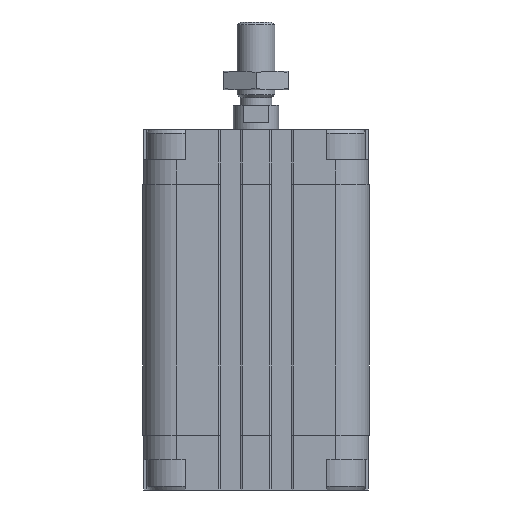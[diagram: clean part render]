
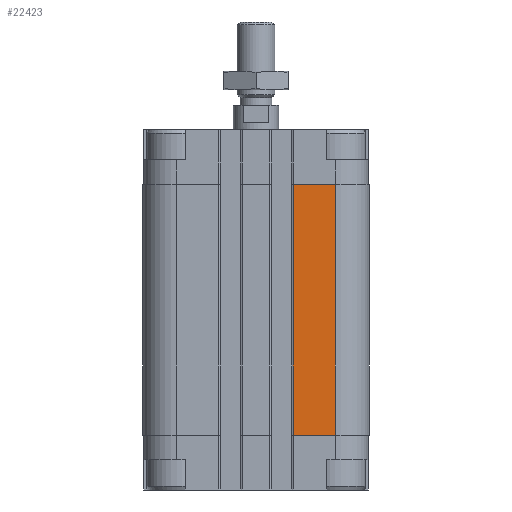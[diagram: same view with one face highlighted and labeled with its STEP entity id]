
A CAD part, front view. The second image highlights one B-rep face of the part: STEP entity #22423.
In plain terms, the highlighted planar face has unit normal (0, -1, 0).
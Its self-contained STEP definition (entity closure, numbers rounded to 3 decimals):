
#145 = EDGE_CURVE ( 'NONE', #3998, #12219, #4376, .T. ) ;
#923 = VECTOR ( 'NONE', #8319, 1000. ) ;
#1722 = LINE ( 'NONE', #1839, #22267 ) ;
#1839 = CARTESIAN_POINT ( 'NONE',  ( 9.85, -30., -81. ) ) ;
#2235 = ORIENTED_EDGE ( 'NONE', *, *, #5412, .F. ) ;
#3998 = VERTEX_POINT ( 'NONE', #21589 ) ;
#4376 = LINE ( 'NONE', #11462, #5893 ) ;
#5412 = EDGE_CURVE ( 'NONE', #3998, #19537, #1722, .T. ) ;
#5431 = DIRECTION ( 'NONE',  ( 0., 0., 1. ) ) ;
#5867 = CARTESIAN_POINT ( 'NONE',  ( 9.85, -30., -14.5 ) ) ;
#5893 = VECTOR ( 'NONE', #13312, 1000. ) ;
#6022 = LINE ( 'NONE', #14620, #17531 ) ;
#7372 = CARTESIAN_POINT ( 'NONE',  ( 9.85, -30., -81. ) ) ;
#7473 = EDGE_CURVE ( 'NONE', #19537, #9002, #6022, .T. ) ;
#7710 = PLANE ( 'NONE',  #8343 ) ;
#8319 = DIRECTION ( 'NONE',  ( 0., 0., 1. ) ) ;
#8343 = AXIS2_PLACEMENT_3D ( 'NONE', #7372, #14453, #21878 ) ;
#9002 = VERTEX_POINT ( 'NONE', #19267 ) ;
#10066 = LINE ( 'NONE', #17155, #923 ) ;
#10316 = CARTESIAN_POINT ( 'NONE',  ( 21., -30., -81. ) ) ;
#10844 = ORIENTED_EDGE ( 'NONE', *, *, #145, .T. ) ;
#11462 = CARTESIAN_POINT ( 'NONE',  ( 9.85, -30., -81. ) ) ;
#12106 = ORIENTED_EDGE ( 'NONE', *, *, #18120, .T. ) ;
#12219 = VERTEX_POINT ( 'NONE', #10316 ) ;
#13312 = DIRECTION ( 'NONE',  ( 1., 0., 0. ) ) ;
#14401 = DIRECTION ( 'NONE',  ( 1., 0., 0. ) ) ;
#14453 = DIRECTION ( 'NONE',  ( 0., -1., 0. ) ) ;
#14620 = CARTESIAN_POINT ( 'NONE',  ( 9.85, -30., -14.5 ) ) ;
#17155 = CARTESIAN_POINT ( 'NONE',  ( 21., -30., -81. ) ) ;
#17445 = EDGE_LOOP ( 'NONE', ( #22064, #2235, #10844, #12106 ) ) ;
#17531 = VECTOR ( 'NONE', #14401, 1000. ) ;
#18120 = EDGE_CURVE ( 'NONE', #12219, #9002, #10066, .T. ) ;
#18167 = FACE_OUTER_BOUND ( 'NONE', #17445, .T. ) ;
#19267 = CARTESIAN_POINT ( 'NONE',  ( 21., -30., -14.5 ) ) ;
#19537 = VERTEX_POINT ( 'NONE', #5867 ) ;
#21589 = CARTESIAN_POINT ( 'NONE',  ( 9.85, -30., -81. ) ) ;
#21878 = DIRECTION ( 'NONE',  ( -1., 0., 0. ) ) ;
#22064 = ORIENTED_EDGE ( 'NONE', *, *, #7473, .F. ) ;
#22267 = VECTOR ( 'NONE', #5431, 1000. ) ;
#22423 = ADVANCED_FACE ( 'NONE', ( #18167 ), #7710, .T. ) ;
